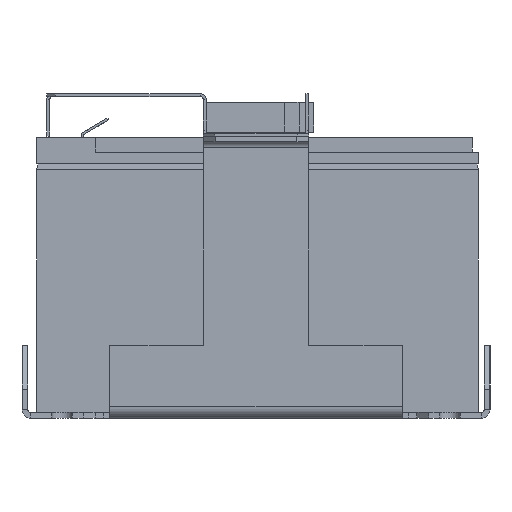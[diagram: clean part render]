
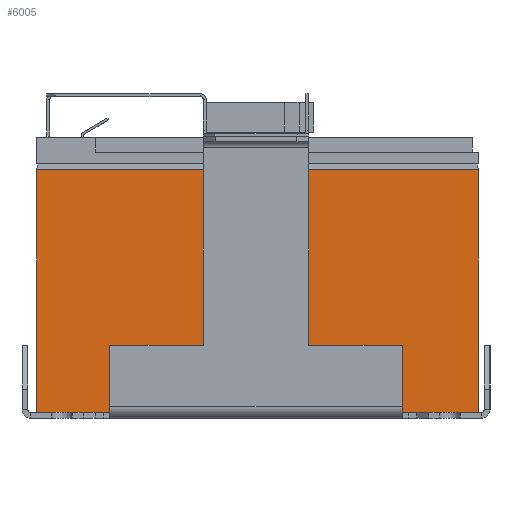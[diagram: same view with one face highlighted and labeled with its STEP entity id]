
A CAD part, left-side view. The second image highlights one B-rep face of the part: STEP entity #6005.
In plain terms, the highlighted planar face has unit normal (-1, 0, 0) as drawn and (0, 1, 0) by its records, which use the part's own axes.
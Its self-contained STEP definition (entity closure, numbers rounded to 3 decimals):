
#505=FACE_OUTER_BOUND('',#851,.T.);
#851=EDGE_LOOP('',(#5320,#5321,#5322,#5323));
#1566=LINE('',#9684,#2326);
#1588=LINE('',#9731,#2348);
#1602=LINE('',#9755,#2362);
#1605=LINE('',#9761,#2365);
#2326=VECTOR('',#7992,10.);
#2348=VECTOR('',#8030,10.);
#2362=VECTOR('',#8054,10.);
#2365=VECTOR('',#8063,10.);
#2876=VERTEX_POINT('',#9682);
#2877=VERTEX_POINT('',#9683);
#2892=VERTEX_POINT('',#9727);
#2894=VERTEX_POINT('',#9730);
#3678=EDGE_CURVE('',#2876,#2877,#1566,.T.);
#3700=EDGE_CURVE('',#2894,#2892,#1588,.T.);
#3714=EDGE_CURVE('',#2877,#2892,#1602,.T.);
#3717=EDGE_CURVE('',#2876,#2894,#1605,.T.);
#5320=ORIENTED_EDGE('',*,*,#3700,.T.);
#5321=ORIENTED_EDGE('',*,*,#3714,.F.);
#5322=ORIENTED_EDGE('',*,*,#3678,.F.);
#5323=ORIENTED_EDGE('',*,*,#3717,.T.);
#5680=PLANE('',#6538);
#6005=ADVANCED_FACE('',(#505),#5680,.T.);
#6538=AXIS2_PLACEMENT_3D('',#9760,#8061,#8062);
#7992=DIRECTION('',(1.,0.,0.));
#8030=DIRECTION('',(1.,0.,0.));
#8054=DIRECTION('',(0.,0.,1.));
#8061=DIRECTION('center_axis',(0.,1.,0.));
#8062=DIRECTION('ref_axis',(-1.,0.,0.));
#8063=DIRECTION('',(0.,0.,1.));
#9682=CARTESIAN_POINT('',(-75.5,32.5,0.));
#9683=CARTESIAN_POINT('',(75.5,32.5,0.));
#9684=CARTESIAN_POINT('',(-75.5,32.5,0.));
#9727=CARTESIAN_POINT('',(75.5,32.5,83.));
#9730=CARTESIAN_POINT('',(-75.5,32.5,83.));
#9731=CARTESIAN_POINT('',(0.,32.5,83.));
#9755=CARTESIAN_POINT('',(75.5,32.5,0.));
#9760=CARTESIAN_POINT('Origin',(75.5,32.5,0.));
#9761=CARTESIAN_POINT('',(-75.5,32.5,0.));
